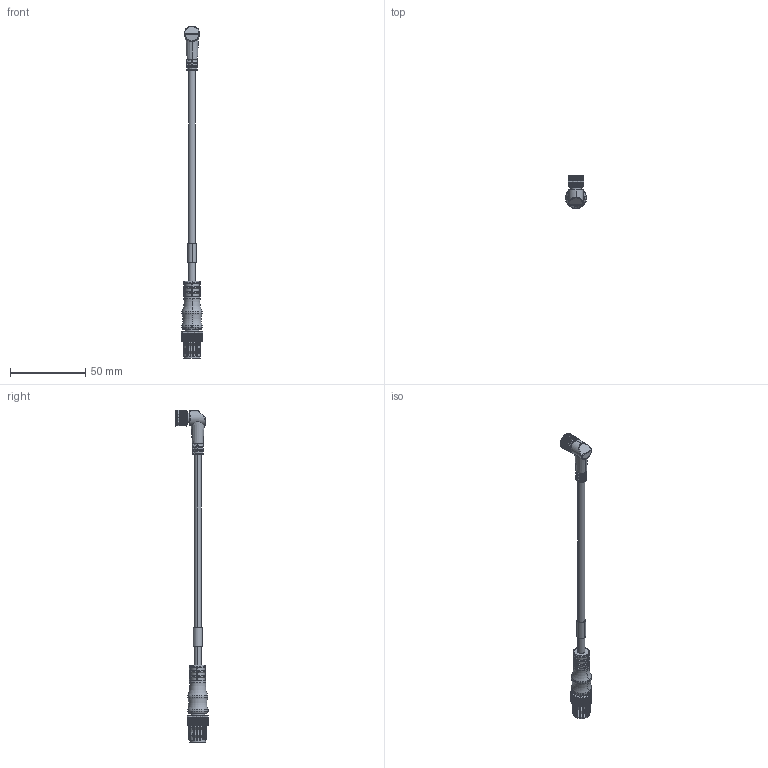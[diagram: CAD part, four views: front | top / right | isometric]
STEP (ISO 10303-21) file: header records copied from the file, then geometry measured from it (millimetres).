
FILE_DESCRIPTION((''),'2;1');
FILE_NAME('889P-R3BBD4M-2_ASM','2015-05-21T',('20040676'),('Rockwell Automation'),'PRO/ENGINEER BY PARAMETRIC TECHNOLOGY CORPORATION, 2009140','PRO/ENGINEER BY PARAMETRIC TECHNOLOGY CORPORATION, 2009140','');
FILE_SCHEMA(('CONFIG_CONTROL_DESIGN'));
Length unit declared in the file: inch
Products named in the file (3): 889D-M4AB-2; 889P-R3AB-2; 889P-R3BBD4M-2_ASM
Assembly tree (2 placements, depth 2):
  889P-R3BBD4M-2_ASM
    889D-M4AB-2
    889P-R3AB-2
Bounding box: 14 x 22.07 x 220.31 mm (x, y, z)
Volume: 9548.2 mm3; surface area: 7154.6 mm2
Topology: 2 solids, 2 shells, 916 faces, 2288 edges, 1404 vertices
Faces by surface type: plane 418, cylinder 351, cone 102, torus 41, bspline 2, sphere 2
Entity records: 28389 total; most frequent: CARTESIAN_POINT 6101, DIRECTION 4912, ORIENTED_EDGE 4576, EDGE_CURVE 2288, AXIS2_PLACEMENT_3D 1894, VERTEX_POINT 1404, VECTOR 1124, LINE 1124
